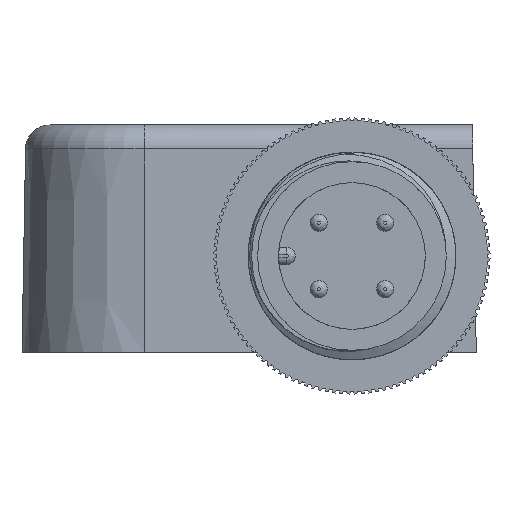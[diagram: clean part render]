
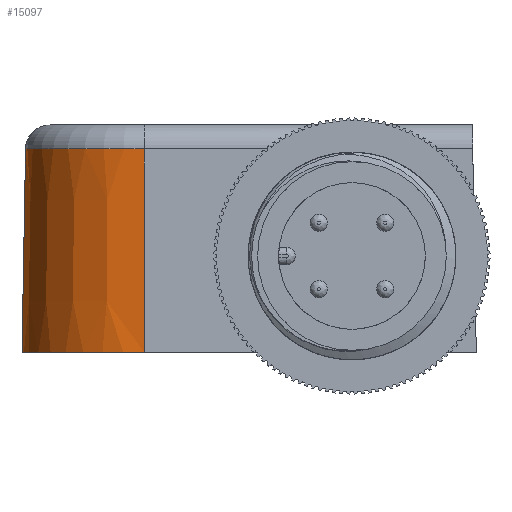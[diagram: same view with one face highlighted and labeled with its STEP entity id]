
A CAD part, left-side view. The second image highlights one B-rep face of the part: STEP entity #15097.
In plain terms, the highlighted conical face has half-angle 1 degrees and reference radius 7 mm.
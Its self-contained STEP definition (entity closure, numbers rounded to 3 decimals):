
#102=CONICAL_SURFACE('',#16619,7.,0.017);
#1323=FACE_OUTER_BOUND('',#2148,.T.);
#2148=EDGE_LOOP('',(#13872,#13873,#13874,#13875));
#3632=LINE('',#27733,#5047);
#3633=LINE('',#27735,#5048);
#5047=VECTOR('',#20991,11.626);
#5048=VECTOR('',#20994,11.626);
#5766=CIRCLE('',#16556,7.);
#5789=CIRCLE('',#16602,6.797);
#7212=VERTEX_POINT('',#27576);
#7214=VERTEX_POINT('',#27579);
#7248=VERTEX_POINT('',#27684);
#7250=VERTEX_POINT('',#27690);
#9395=EDGE_CURVE('',#7214,#7212,#5766,.T.);
#9451=EDGE_CURVE('',#7250,#7248,#5789,.T.);
#9471=EDGE_CURVE('',#7214,#7248,#3632,.T.);
#9472=EDGE_CURVE('',#7212,#7250,#3633,.T.);
#13872=ORIENTED_EDGE('',*,*,#9451,.T.);
#13873=ORIENTED_EDGE('',*,*,#9471,.F.);
#13874=ORIENTED_EDGE('',*,*,#9395,.T.);
#13875=ORIENTED_EDGE('',*,*,#9472,.T.);
#15097=ADVANCED_FACE('',(#1323),#102,.T.);
#16556=AXIS2_PLACEMENT_3D('',#27580,#20818,#20819);
#16602=AXIS2_PLACEMENT_3D('',#27693,#20941,#20942);
#16619=AXIS2_PLACEMENT_3D('',#27734,#20992,#20993);
#20818=DIRECTION('center_axis',(0.,0.,1.));
#20819=DIRECTION('ref_axis',(-1.,0.,0.));
#20941=DIRECTION('center_axis',(0.,0.,
-1.));
#20942=DIRECTION('ref_axis',(-0.707,0.707,0.));
#20991=DIRECTION('',(0.,-0.017,1.));
#20992=DIRECTION('center_axis',(0.,0.,
-1.));
#20993=DIRECTION('ref_axis',(-1.,0.,0.));
#20994=DIRECTION('',(0.017,0.,1.));
#27576=CARTESIAN_POINT('',(-18.,19.,0.));
#27579=CARTESIAN_POINT('',(-11.,26.,0.));
#27580=CARTESIAN_POINT('Origin',(-11.,19.,0.));
#27684=CARTESIAN_POINT('',(-11.,25.797,11.624));
#27690=CARTESIAN_POINT('',(-17.797,19.,11.624));
#27693=CARTESIAN_POINT('Origin',(-11.,19.,11.624));
#27733=CARTESIAN_POINT('',(-11.,26.,0.));
#27734=CARTESIAN_POINT('Origin',(-11.,19.,0.));
#27735=CARTESIAN_POINT('',(-18.,19.,0.));
